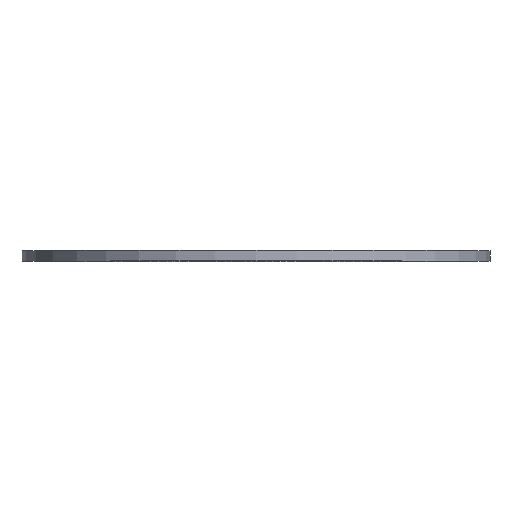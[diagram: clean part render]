
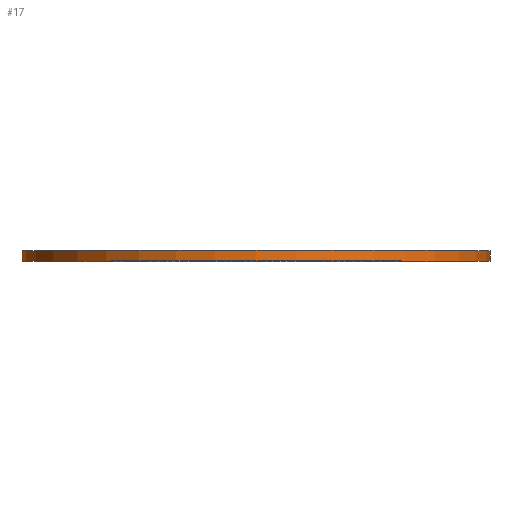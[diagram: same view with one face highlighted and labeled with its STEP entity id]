
A CAD part, top view. The second image highlights one B-rep face of the part: STEP entity #17.
In plain terms, the highlighted cylindrical face has radius 176 mm (diameter 352 mm), a full revolution.
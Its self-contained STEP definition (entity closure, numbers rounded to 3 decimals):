
#17 = ADVANCED_FACE('',(#18),#31,.T.);
#18 = FACE_BOUND('',#19,.T.);
#19 = EDGE_LOOP('',(#20,#54,#77,#104));
#20 = ORIENTED_EDGE('',*,*,#21,.F.);
#21 = EDGE_CURVE('',#22,#22,#24,.T.);
#22 = VERTEX_POINT('',#23);
#23 = CARTESIAN_POINT('',(0.,338.,176.));
#24 = SURFACE_CURVE('',#25,(#30,#42),.PCURVE_S1.);
#25 = CIRCLE('',#26,176.);
#26 = AXIS2_PLACEMENT_3D('',#27,#28,#29);
#27 = CARTESIAN_POINT('',(0.,338.,0.));
#28 = DIRECTION('',(0.,1.,0.));
#29 = DIRECTION('',(0.,-0.,1.));
#30 = PCURVE('',#31,#36);
#31 = CYLINDRICAL_SURFACE('',#32,176.);
#32 = AXIS2_PLACEMENT_3D('',#33,#34,#35);
#33 = CARTESIAN_POINT('',(0.,330.,0.));
#34 = DIRECTION('',(0.,1.,0.));
#35 = DIRECTION('',(0.,-0.,1.));
#36 = DEFINITIONAL_REPRESENTATION('',(#37),#41);
#37 = LINE('',#38,#39);
#38 = CARTESIAN_POINT('',(0.,8.));
#39 = VECTOR('',#40,1.);
#40 = DIRECTION('',(1.,0.));
#41 = ( GEOMETRIC_REPRESENTATION_CONTEXT(2) 
PARAMETRIC_REPRESENTATION_CONTEXT() REPRESENTATION_CONTEXT('2D SPACE',''
  ) );
#42 = PCURVE('',#43,#48);
#43 = PLANE('',#44);
#44 = AXIS2_PLACEMENT_3D('',#45,#46,#47);
#45 = CARTESIAN_POINT('',(0.,338.,0.));
#46 = DIRECTION('',(0.,1.,0.));
#47 = DIRECTION('',(0.,-0.,1.));
#48 = DEFINITIONAL_REPRESENTATION('',(#49),#53);
#49 = CIRCLE('',#50,176.);
#50 = AXIS2_PLACEMENT_2D('',#51,#52);
#51 = CARTESIAN_POINT('',(0.,0.));
#52 = DIRECTION('',(1.,0.));
#53 = ( GEOMETRIC_REPRESENTATION_CONTEXT(2) 
PARAMETRIC_REPRESENTATION_CONTEXT() REPRESENTATION_CONTEXT('2D SPACE',''
  ) );
#54 = ORIENTED_EDGE('',*,*,#55,.F.);
#55 = EDGE_CURVE('',#56,#22,#58,.T.);
#56 = VERTEX_POINT('',#57);
#57 = CARTESIAN_POINT('',(0.,330.,176.));
#58 = SEAM_CURVE('',#59,(#63,#70),.PCURVE_S1.);
#59 = LINE('',#60,#61);
#60 = CARTESIAN_POINT('',(0.,330.,176.));
#61 = VECTOR('',#62,1.);
#62 = DIRECTION('',(0.,1.,0.));
#63 = PCURVE('',#31,#64);
#64 = DEFINITIONAL_REPRESENTATION('',(#65),#69);
#65 = LINE('',#66,#67);
#66 = CARTESIAN_POINT('',(6.283,-0.));
#67 = VECTOR('',#68,1.);
#68 = DIRECTION('',(0.,1.));
#69 = ( GEOMETRIC_REPRESENTATION_CONTEXT(2) 
PARAMETRIC_REPRESENTATION_CONTEXT() REPRESENTATION_CONTEXT('2D SPACE',''
  ) );
#70 = PCURVE('',#31,#71);
#71 = DEFINITIONAL_REPRESENTATION('',(#72),#76);
#72 = LINE('',#73,#74);
#73 = CARTESIAN_POINT('',(0.,-0.));
#74 = VECTOR('',#75,1.);
#75 = DIRECTION('',(0.,1.));
#76 = ( GEOMETRIC_REPRESENTATION_CONTEXT(2) 
PARAMETRIC_REPRESENTATION_CONTEXT() REPRESENTATION_CONTEXT('2D SPACE',''
  ) );
#77 = ORIENTED_EDGE('',*,*,#78,.T.);
#78 = EDGE_CURVE('',#56,#56,#79,.T.);
#79 = SURFACE_CURVE('',#80,(#85,#92),.PCURVE_S1.);
#80 = CIRCLE('',#81,176.);
#81 = AXIS2_PLACEMENT_3D('',#82,#83,#84);
#82 = CARTESIAN_POINT('',(0.,330.,0.));
#83 = DIRECTION('',(0.,1.,0.));
#84 = DIRECTION('',(0.,-0.,1.));
#85 = PCURVE('',#31,#86);
#86 = DEFINITIONAL_REPRESENTATION('',(#87),#91);
#87 = LINE('',#88,#89);
#88 = CARTESIAN_POINT('',(0.,0.));
#89 = VECTOR('',#90,1.);
#90 = DIRECTION('',(1.,0.));
#91 = ( GEOMETRIC_REPRESENTATION_CONTEXT(2) 
PARAMETRIC_REPRESENTATION_CONTEXT() REPRESENTATION_CONTEXT('2D SPACE',''
  ) );
#92 = PCURVE('',#93,#98);
#93 = PLANE('',#94);
#94 = AXIS2_PLACEMENT_3D('',#95,#96,#97);
#95 = CARTESIAN_POINT('',(0.,330.,0.));
#96 = DIRECTION('',(0.,1.,0.));
#97 = DIRECTION('',(0.,-0.,1.));
#98 = DEFINITIONAL_REPRESENTATION('',(#99),#103);
#99 = CIRCLE('',#100,176.);
#100 = AXIS2_PLACEMENT_2D('',#101,#102);
#101 = CARTESIAN_POINT('',(0.,0.));
#102 = DIRECTION('',(1.,0.));
#103 = ( GEOMETRIC_REPRESENTATION_CONTEXT(2) 
PARAMETRIC_REPRESENTATION_CONTEXT() REPRESENTATION_CONTEXT('2D SPACE',''
  ) );
#104 = ORIENTED_EDGE('',*,*,#55,.T.);
